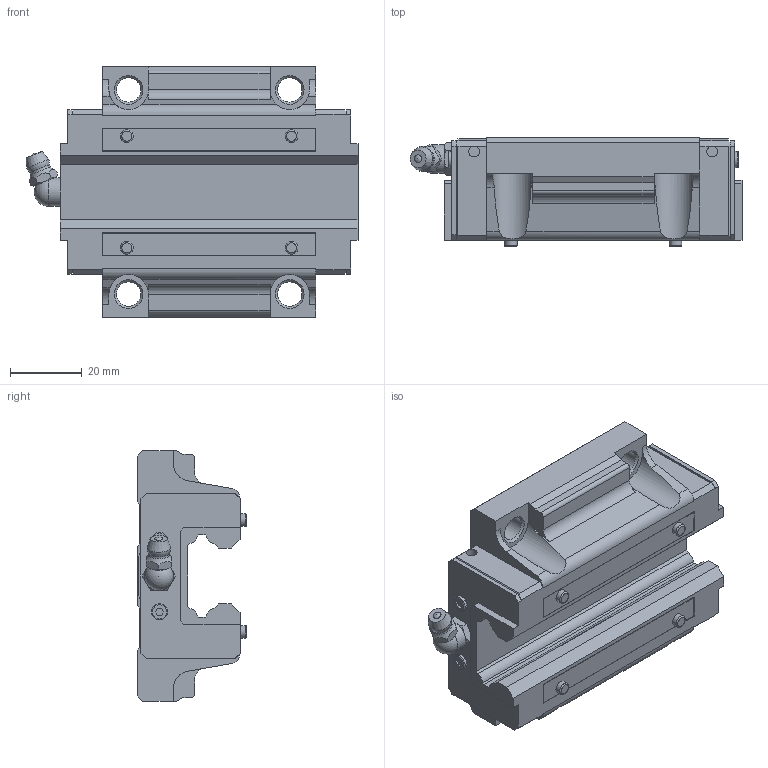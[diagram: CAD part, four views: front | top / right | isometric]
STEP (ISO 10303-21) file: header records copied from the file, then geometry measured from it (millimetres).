
FILE_DESCRIPTION(/* description */ ('STEP AP203'),/* implementation_level */ '2;1');
FILE_NAME(/* name */ 'HSR25C1SS(GK) BLOCK(1B-M6F)',/* time_stamp */ '2024-05-21T04:55:06+02:00',/* author */ ('License CC BY-ND 4.0'),/* organization */ ('CADENAS'),/* preprocessor_version */ 'ST-DEVELOPER v19.3',/* originating_system */ 'PARTsolutions',/* authorisation */ ' ');
FILE_SCHEMA (('CONFIG_CONTROL_DESIGN'));
Length unit declared in the file: millimetre
Products named in the file (3): HSR25C1SS(GK) BLOCK(1B-M6F); HSR25CSSB-M6F11 S; hsr_ftht_B-M6F_grease_nipple_joint
Assembly tree (2 placements, depth 2):
  HSR25C1SS(GK) BLOCK(1B-M6F)
    HSR25CSSB-M6F11 S
    hsr_ftht_B-M6F_grease_nipple_joint
Bounding box: 92.7 x 30.5 x 70 mm (x, y, z)
Volume: 102533.5 mm3; surface area: 22074 mm2
Topology: 2 solids, 2 shells, 276 faces, 726 edges, 471 vertices
Faces by surface type: plane 192, cylinder 50, cone 21, torus 10, sphere 3
Full cylindrical faces by diameter (mm): 3 x4, 3.518 x4, 4.5 x4, 4.917 x2, 6 x1, 6.2 x2, 6.8 x4, 8 x1
Entity records: 8181 total; most frequent: CARTESIAN_POINT 1552, DIRECTION 1320, ORIENTED_EDGE 1312, EDGE_CURVE 656, LINE 478, VECTOR 478, VERTEX_POINT 453, AXIS2_PLACEMENT_3D 421
